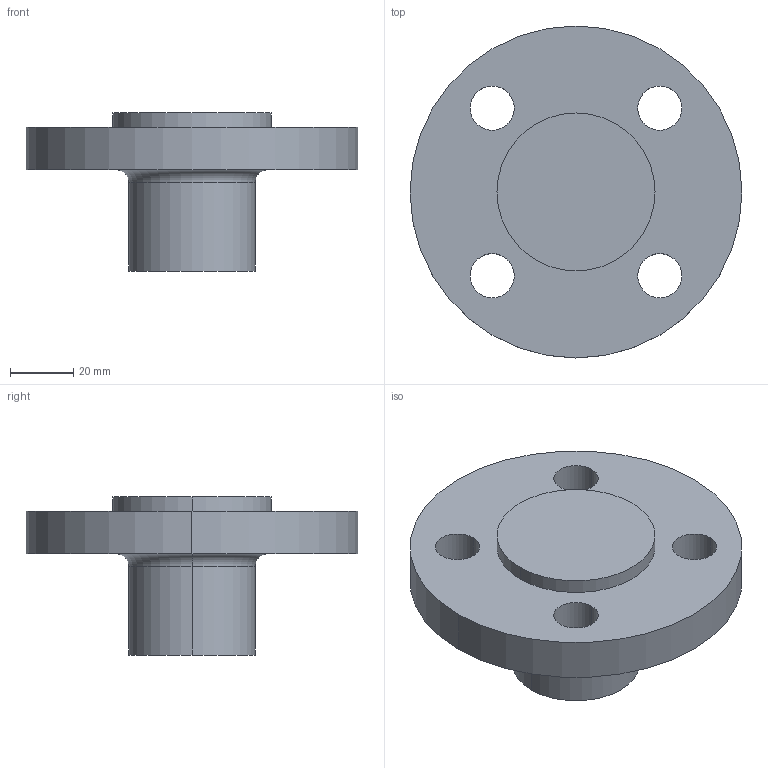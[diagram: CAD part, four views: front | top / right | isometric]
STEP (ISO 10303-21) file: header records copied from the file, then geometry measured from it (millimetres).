
FILE_DESCRIPTION (( 'STEP AP214' ), '1' );
FILE_NAME ('PN40 DN20 Type 21(i) - Type E Face.STEP', '2018-12-29T16:22:07', ( '' ), ( '' ), 'SwSTEP 2.0', 'SolidWorks 2019', '' );
FILE_SCHEMA (( 'AUTOMOTIVE_DESIGN' ));
Length unit declared in the file: millimetre
Products named in the file (1): PN40 DN20 Type 21(i) - Type E Face
Bounding box: 105 x 105 x 50 mm (x, y, z)
Volume: 158082.9 mm3; surface area: 27434.2 mm2
Topology: 1 solids, 1 shells, 20 faces, 46 edges, 30 vertices
Faces by surface type: cylinder 14, plane 4, torus 2
Entity records: 636 total; most frequent: DIRECTION 120, CARTESIAN_POINT 97, ORIENTED_EDGE 92, AXIS2_PLACEMENT_3D 53, EDGE_CURVE 46, CIRCLE 32, VERTEX_POINT 30, EDGE_LOOP 30
